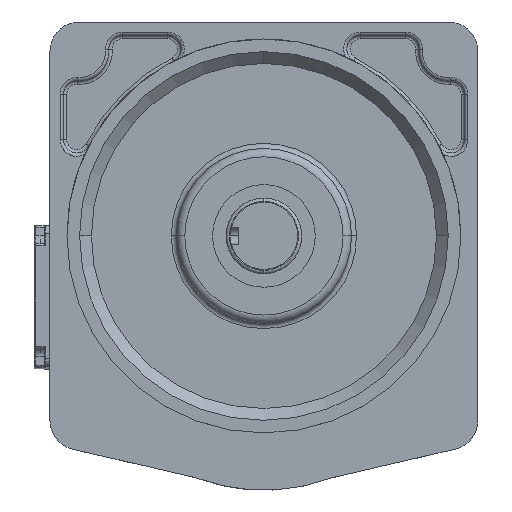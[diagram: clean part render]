
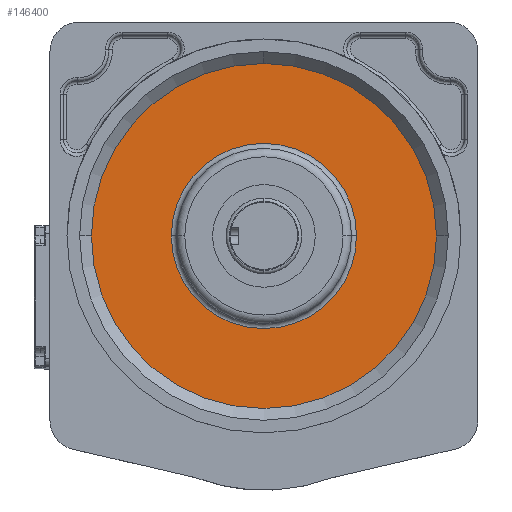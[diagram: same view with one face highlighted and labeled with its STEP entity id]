
A CAD part, top view. The second image highlights one B-rep face of the part: STEP entity #146400.
In plain terms, the highlighted planar face has unit normal (0, 0, 1) as drawn and (0, 1, 0) by its records, which use the part's own axes.
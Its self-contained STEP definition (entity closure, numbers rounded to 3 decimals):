
#2309 = ORIENTED_EDGE ( 'NONE', *, *, #158995, .T. ) ;
#4165 = DIRECTION ( 'NONE',  ( 0., -1., 0. ) ) ;
#6865 = CARTESIAN_POINT ( 'NONE',  ( 0., 139.5, -36. ) ) ;
#7502 = CARTESIAN_POINT ( 'NONE',  ( -55., 139.5, -35.986 ) ) ;
#11972 = EDGE_CURVE ( 'NONE', #98433, #144823, #143665, .T. ) ;
#13775 = CARTESIAN_POINT ( 'NONE',  ( 55., 139.5, -36.014 ) ) ;
#14859 = DIRECTION ( 'NONE',  ( 0., -1., 0. ) ) ;
#15743 = CARTESIAN_POINT ( 'NONE',  ( 0., 139.5, -36. ) ) ;
#16021 = EDGE_CURVE ( 'NONE', #83359, #122649, #152575, .T. ) ;
#27903 = FACE_OUTER_BOUND ( 'NONE', #57835, .T. ) ;
#32230 = CARTESIAN_POINT ( 'NONE',  ( -102.5, 139.5, -36. ) ) ;
#33151 = CARTESIAN_POINT ( 'NONE',  ( 0., 139.5, -138.5 ) ) ;
#34327 = ORIENTED_EDGE ( 'NONE', *, *, #80345, .F. ) ;
#35800 = ORIENTED_EDGE ( 'NONE', *, *, #77026, .F. ) ;
#37534 = AXIS2_PLACEMENT_3D ( 'NONE', #115041, #4165, #53523 ) ;
#40635 = CARTESIAN_POINT ( 'NONE',  ( 0., 139.5, -36. ) ) ;
#40772 = DIRECTION ( 'NONE',  ( 0., 0., -1. ) ) ;
#48284 = AXIS2_PLACEMENT_3D ( 'NONE', #102310, #151720, #40772 ) ;
#53523 = DIRECTION ( 'NONE',  ( 1., 0., 0. ) ) ;
#56232 = DIRECTION ( 'NONE',  ( 0., 1., 0. ) ) ;
#57835 = EDGE_LOOP ( 'NONE', ( #35800, #34327, #145338 ) ) ;
#59875 = AXIS2_PLACEMENT_3D ( 'NONE', #125762, #14859, #64228 ) ;
#60396 = CARTESIAN_POINT ( 'NONE',  ( 102.5, 139.5, -36. ) ) ;
#64228 = DIRECTION ( 'NONE',  ( 0., 0., 1. ) ) ;
#65099 = DIRECTION ( 'NONE',  ( 0., 1., 0. ) ) ;
#73783 = AXIS2_PLACEMENT_3D ( 'NONE', #40635, #90004, #139414 ) ;
#77026 = EDGE_CURVE ( 'NONE', #139647, #98433, #118101, .T. ) ;
#77263 = FACE_BOUND ( 'NONE', #94074, .T. ) ;
#80345 = EDGE_CURVE ( 'NONE', #144823, #139647, #129658, .T. ) ;
#82712 = AXIS2_PLACEMENT_3D ( 'NONE', #6865, #56232, #105641 ) ;
#83359 = VERTEX_POINT ( 'NONE', #13775 ) ;
#90004 = DIRECTION ( 'NONE',  ( 0., -1., 0. ) ) ;
#94074 = EDGE_LOOP ( 'NONE', ( #2309, #95880 ) ) ;
#95880 = ORIENTED_EDGE ( 'NONE', *, *, #16021, .F. ) ;
#98433 = VERTEX_POINT ( 'NONE', #33151 ) ;
#102310 = CARTESIAN_POINT ( 'NONE',  ( 0., 139.5, -36. ) ) ;
#105641 = DIRECTION ( 'NONE',  ( 1., 0., 0. ) ) ;
#107335 = CIRCLE ( 'NONE', #37534, 55. ) ;
#112594 = AXIS2_PLACEMENT_3D ( 'NONE', #15743, #65099, #114483 ) ;
#114483 = DIRECTION ( 'NONE',  ( 1., 0., 0. ) ) ;
#115041 = CARTESIAN_POINT ( 'NONE',  ( 0., 139.5, -36. ) ) ;
#118101 = CIRCLE ( 'NONE', #48284, 102.5 ) ;
#122649 = VERTEX_POINT ( 'NONE', #7502 ) ;
#125762 = CARTESIAN_POINT ( 'NONE',  ( 0., 139.5, -36. ) ) ;
#126654 = PLANE ( 'NONE',  #112594 ) ;
#129658 = CIRCLE ( 'NONE', #59875, 102.5 ) ;
#139414 = DIRECTION ( 'NONE',  ( 0., 0., -1. ) ) ;
#139647 = VERTEX_POINT ( 'NONE', #32230 ) ;
#143665 = CIRCLE ( 'NONE', #73783, 102.5 ) ;
#144823 = VERTEX_POINT ( 'NONE', #60396 ) ;
#145338 = ORIENTED_EDGE ( 'NONE', *, *, #11972, .F. ) ;
#146400 = ADVANCED_FACE ( 'NONE', ( #27903, #77263 ), #126654, .T. ) ;
#151720 = DIRECTION ( 'NONE',  ( 0., -1., 0. ) ) ;
#152575 = CIRCLE ( 'NONE', #82712, 55. ) ;
#158995 = EDGE_CURVE ( 'NONE', #83359, #122649, #107335, .T. ) ;
